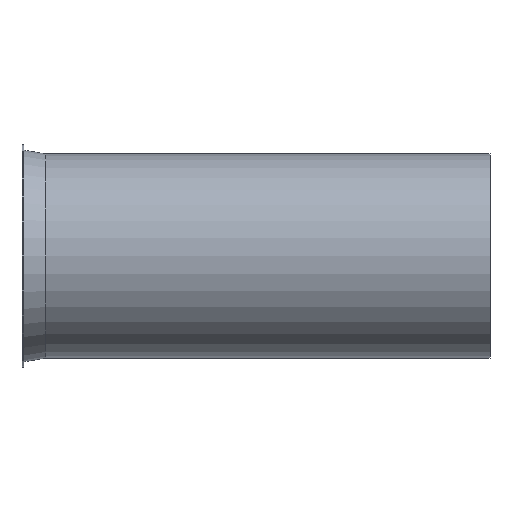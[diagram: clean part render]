
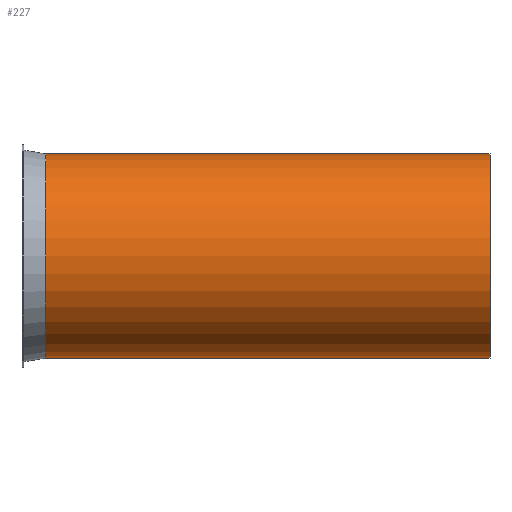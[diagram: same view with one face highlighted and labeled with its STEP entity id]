
A CAD part, front view. The second image highlights one B-rep face of the part: STEP entity #227.
In plain terms, the highlighted cylindrical face has radius 107.5 mm (diameter 215 mm), a full revolution.
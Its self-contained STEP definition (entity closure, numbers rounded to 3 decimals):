
#132=CARTESIAN_POINT('',(-2.081,46.834,0.0));
#133=VERTEX_POINT('',#132);
#134=CARTESIAN_POINT('',(-2.081,154.334,0.0));
#135=DIRECTION('',(-1.0,0.0,0.0));
#136=DIRECTION('',(0.0,-1.0,0.0));
#137=AXIS2_PLACEMENT_3D('',#134,#135,#136);
#138=CIRCLE('',#137,107.5);
#139=EDGE_CURVE('',#133,#133,#138,.T.);
#201=CARTESIAN_POINT('',(465.919,46.834,0.0));
#202=VERTEX_POINT('',#201);
#203=CARTESIAN_POINT('',(465.919,154.334,0.0));
#204=DIRECTION('',(-1.0,0.0,0.0));
#205=DIRECTION('',(0.0,-1.0,0.0));
#206=AXIS2_PLACEMENT_3D('',#203,#204,#205);
#207=CIRCLE('',#206,107.5);
#208=EDGE_CURVE('',#202,#202,#207,.T.);
#216=CARTESIAN_POINT('',(231.919,154.334,0.0));
#217=DIRECTION('',(-1.0,0.,0.0));
#218=DIRECTION('',(0.0,-1.0,0.0));
#219=AXIS2_PLACEMENT_3D('',#216,#217,#218);
#220=CYLINDRICAL_SURFACE('',#219,107.5);
#221=ORIENTED_EDGE('',*,*,#139,.F.);
#222=EDGE_LOOP('',(#221));
#223=FACE_OUTER_BOUND('',#222,.T.);
#224=ORIENTED_EDGE('',*,*,#208,.T.);
#225=EDGE_LOOP('',(#224));
#226=FACE_BOUND('',#225,.T.);
#227=ADVANCED_FACE('',(#223,#226),#220,.T.);
